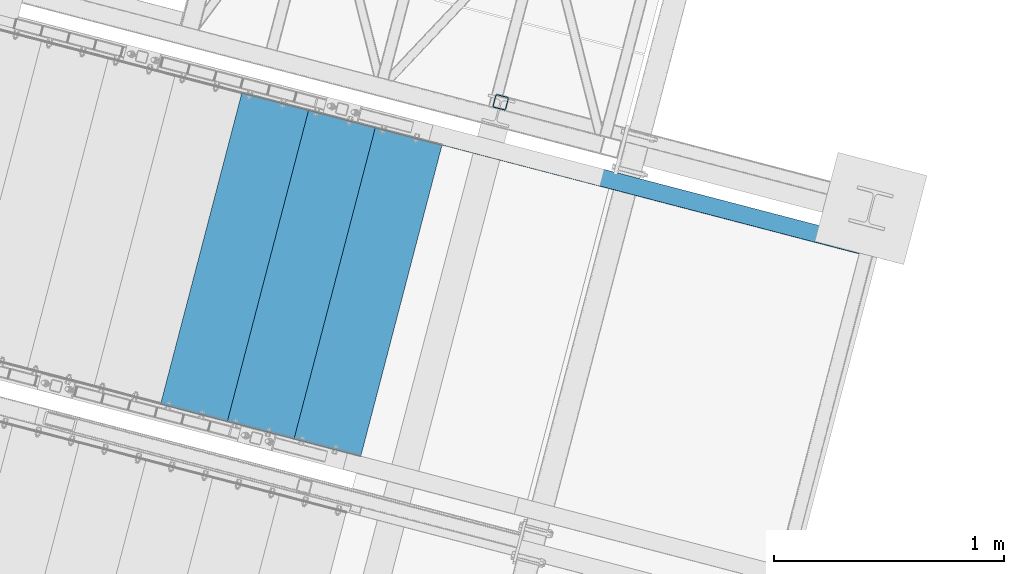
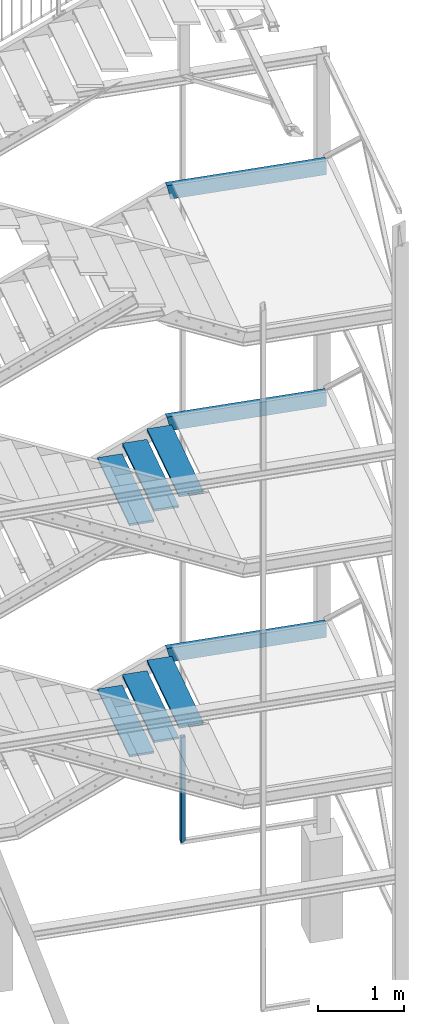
# One storey, part 46 of 169: 10 discrete accessories, 10 elements without a shape of their own.
"""IFC2X3 building model written with IfcOpenShell, lengths in millimetres."""

from ifc_helpers import new_model, si_unit, frame, origin_with_axes, origin_2d_with_axis, place, context, subcontext, project, spatial, polyline, hollow_rectangle, u_section, outline, extrude, clip, halfspace, material, type_object, element, aggregate, save


model = new_model("IFC2X3")

# Units and contexts
model_context = context("Model", 3, precision=1e-05, world=origin_with_axes())
body_context = subcontext(model_context, "Body", "Model", "MODEL_VIEW")
ifc_project = project(units=[si_unit("LENGTHUNIT", "METRE", prefix="MILLI"), si_unit("AREAUNIT", "SQUARE_METRE"), si_unit("VOLUMEUNIT", "CUBIC_METRE"), si_unit("MASSUNIT", "GRAM", prefix="KILO"), si_unit("TIMEUNIT", "SECOND"), si_unit("PLANEANGLEUNIT", "RADIAN"), si_unit("SOLIDANGLEUNIT", "STERADIAN"), si_unit("THERMODYNAMICTEMPERATUREUNIT", "DEGREE_CELSIUS"), si_unit("LUMINOUSINTENSITYUNIT", "LUMEN")], contexts=[model_context])

# Site, building, storey
site_placement = place(None, origin_with_axes())
site = spatial("IfcSite", under=ifc_project, at=site_placement, Name="Undefined", CompositionType="ELEMENT")
building_placement = place(site_placement, origin_with_axes())
building = spatial("IfcBuilding", under=site, at=building_placement, Name="Undefined", CompositionType="ELEMENT")
storey_placement = place(building_placement, origin_with_axes())
storey = spatial("IfcBuildingStorey", under=building, at=storey_placement, Name="Undefined", CompositionType="ELEMENT", Elevation=0.0)

# Assembly, discrete accessory
assembly_1_placement = place(storey_placement, origin_with_axes())
assembly_1 = element("IfcElementAssembly", 1, at=assembly_1_placement, inside=storey, Name="Steel Assembly", AssemblyPlace="NOTDEFINED", PredefinedType="RIGID_FRAME")
ifc_material_1 = material(Name="STEEL/S235")
discrete_accessory_type_1 = type_object("IfcDiscreteAccessoryType", Name="BEAM")
discrete_accessory_1_placement = place(assembly_1_placement, frame((-24117.7701552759, 8116.07185030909, 2709.96656548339), z_axis=(-0.967563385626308, 0.252628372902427, -1.72000000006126e-07), x_axis=(-3.45692487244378e-05, -0.000132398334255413, -0.999999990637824)))
discrete_accessory_1 = element("IfcDiscreteAccessory", 2, at=discrete_accessory_1_placement, type_object=discrete_accessory_type_1, material=ifc_material_1, Name="BEAM", ObjectType="SHS60*4", context=body_context, shape_type="Clipping", body=[
    clip(clip(extrude(hollow_rectangle(XDim=60.0, YDim=60.0, WallThickness=4.0, InnerFilletRadius=4.0, OuterFilletRadius=8.0, at=origin_2d_with_axis()), frame((1569.99999999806, -2.69527646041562e-14, -4.25549352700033e-17), z_axis=(-1.0, -3.46944695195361e-18, -1.38777878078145e-17), x_axis=(1.73472347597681e-18, -1.0, 0.0)), (0.0, 0.0, 1.0), 1500.0), halfspace(frame((1539.99999999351, 4.24233803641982e-09, -30.0000000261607), z_axis=(0.70710678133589, 2.34578304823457e-10, -0.707106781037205), x_axis=(1.73472347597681e-18, -1.0, 0.0)), False)), halfspace(frame((70.000000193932, 1.53045220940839e-09, 999.999999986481), z_axis=(1.0, 0.0, 0.0), x_axis=(0.0, 1.0, 0.0)), True)),
])
aggregate(assembly_1, [discrete_accessory_1])

assembly_2_placement = place(storey_placement, origin_with_axes())
assembly_2 = element("IfcElementAssembly", 3, at=assembly_2_placement, inside=storey, Name="Steel Assembly", AssemblyPlace="NOTDEFINED", PredefinedType="RIGID_FRAME")
ifc_material_2 = material(Name="STEEL/S235JR")
discrete_accessory_type_2 = type_object("IfcDiscreteAccessoryType", Name="STOPNIE")
discrete_accessory_2_placement = place(assembly_2_placement, frame((-24871.7840723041, 6613.45290566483, 7265.09584768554), z_axis=(-2.54700353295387e-10, 0.0, -1.0), x_axis=(0.252562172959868, 0.967580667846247, 0.0)))
discrete_accessory_2 = element("IfcDiscreteAccessory", 4, at=discrete_accessory_2_placement, type_object=discrete_accessory_type_2, material=ifc_material_2, Name="STOPNIE", ObjectType="PL30*300", context=body_context, shape_type="SweptSolid", body=[
    extrude(outline(polyline([(3.45607986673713e-11, -150.00000000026), (-3.09228198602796e-11, 150.000000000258), (1400.00000144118, 150.000000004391), (1400.0000014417, -149.999999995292), (3.45607986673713e-11, -150.00000000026)])), frame((1.81898940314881e-12, 3.72231275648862e-23, -15.0000000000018), z_axis=(0.0, 0.0, 1.0), x_axis=(1.0, 0.0, 0.0)), (0.0, 0.0, 1.0), 30.0),
])
aggregate(assembly_2, [discrete_accessory_2])

assembly_3_placement = place(storey_placement, origin_with_axes())
assembly_3 = element("IfcElementAssembly", 5, at=assembly_3_placement, inside=storey, Name="Steel Assembly", AssemblyPlace="NOTDEFINED", PredefinedType="RIGID_FRAME")
discrete_accessory_3_placement = place(assembly_3_placement, frame((-25162.0582760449, 6689.22155847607, 7115.09584768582), z_axis=(-2.54700353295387e-10, 0.0, -1.0), x_axis=(0.252562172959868, 0.967580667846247, 0.0)))
discrete_accessory_3 = element("IfcDiscreteAccessory", 6, at=discrete_accessory_3_placement, type_object=discrete_accessory_type_2, material=ifc_material_2, Name="STOPNIE", ObjectType="PL30*300", context=body_context, shape_type="SweptSolid", body=[
    extrude(outline(polyline([(3.45607986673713e-11, -150.00000000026), (-3.09228198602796e-11, 150.000000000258), (1400.00000144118, 150.000000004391), (1400.0000014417, -149.999999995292), (3.45607986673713e-11, -150.00000000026)])), frame((1.81898940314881e-12, 3.72231275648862e-23, -15.0000000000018), z_axis=(0.0, 0.0, 1.0), x_axis=(1.0, 0.0, 0.0)), (0.0, 0.0, 1.0), 30.0),
])
aggregate(assembly_3, [discrete_accessory_3])

assembly_4_placement = place(storey_placement, origin_with_axes())
assembly_4 = element("IfcElementAssembly", 7, at=assembly_4_placement, inside=storey, Name="Steel Assembly", AssemblyPlace="NOTDEFINED", PredefinedType="RIGID_FRAME")
discrete_accessory_4_placement = place(assembly_4_placement, frame((-25452.3324797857, 6764.9902112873, 6965.09584768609), z_axis=(-2.54700353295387e-10, 0.0, -1.0), x_axis=(0.252562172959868, 0.967580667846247, 0.0)))
discrete_accessory_4 = element("IfcDiscreteAccessory", 8, at=discrete_accessory_4_placement, type_object=discrete_accessory_type_2, material=ifc_material_2, Name="STOPNIE", ObjectType="PL30*300", context=body_context, shape_type="SweptSolid", body=[
    extrude(outline(polyline([(3.45607986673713e-11, -150.00000000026), (-3.09228198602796e-11, 150.000000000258), (1400.00000144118, 150.000000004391), (1400.0000014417, -149.999999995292), (3.45607986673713e-11, -150.00000000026)])), frame((1.81898940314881e-12, 3.72231275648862e-23, -15.0000000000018), z_axis=(0.0, 0.0, 1.0), x_axis=(1.0, 0.0, 0.0)), (0.0, 0.0, 1.0), 30.0),
])
aggregate(assembly_4, [discrete_accessory_4])

assembly_5_placement = place(storey_placement, origin_with_axes())
assembly_5 = element("IfcElementAssembly", 9, at=assembly_5_placement, inside=storey, Name="Steel Assembly", AssemblyPlace="NOTDEFINED", PredefinedType="RIGID_FRAME")
discrete_accessory_5_placement = place(assembly_5_placement, frame((-24871.8981578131, 6613.01599308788, 3965.09587439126), z_axis=(-2.54700353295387e-10, 0.0, -1.0), x_axis=(0.252562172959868, 0.967580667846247, 0.0)))
discrete_accessory_5 = element("IfcDiscreteAccessory", 10, at=discrete_accessory_5_placement, type_object=discrete_accessory_type_2, material=ifc_material_2, Name="STOPNIE", ObjectType="PL30*300", context=body_context, shape_type="SweptSolid", body=[
    extrude(outline(polyline([(3.45607986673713e-11, -150.00000000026), (-3.09228198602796e-11, 150.000000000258), (1400.00000144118, 150.000000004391), (1400.0000014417, -149.999999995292), (3.45607986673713e-11, -150.00000000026)])), frame((1.81898940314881e-12, 3.72231275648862e-23, -15.0000000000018), z_axis=(0.0, 0.0, 1.0), x_axis=(1.0, 0.0, 0.0)), (0.0, 0.0, 1.0), 30.0),
])
aggregate(assembly_5, [discrete_accessory_5])

assembly_6_placement = place(storey_placement, origin_with_axes())
assembly_6 = element("IfcElementAssembly", 11, at=assembly_6_placement, inside=storey, Name="Steel Assembly", AssemblyPlace="NOTDEFINED", PredefinedType="RIGID_FRAME")
discrete_accessory_6_placement = place(assembly_6_placement, frame((-25162.1723615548, 6688.78464589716, 3815.09587439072), z_axis=(-2.54700353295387e-10, 0.0, -1.0), x_axis=(0.252562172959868, 0.967580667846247, 0.0)))
discrete_accessory_6 = element("IfcDiscreteAccessory", 12, at=discrete_accessory_6_placement, type_object=discrete_accessory_type_2, material=ifc_material_2, Name="STOPNIE", ObjectType="PL30*300", context=body_context, shape_type="SweptSolid", body=[
    extrude(outline(polyline([(3.45607986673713e-11, -150.00000000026), (-3.09228198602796e-11, 150.000000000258), (1400.00000144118, 150.000000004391), (1400.0000014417, -149.999999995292), (3.45607986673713e-11, -150.00000000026)])), frame((1.81898940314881e-12, 3.72231275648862e-23, -15.0000000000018), z_axis=(0.0, 0.0, 1.0), x_axis=(1.0, 0.0, 0.0)), (0.0, 0.0, 1.0), 30.0),
])
aggregate(assembly_6, [discrete_accessory_6])

assembly_7_placement = place(storey_placement, origin_with_axes())
assembly_7 = element("IfcElementAssembly", 13, at=assembly_7_placement, inside=storey, Name="Steel Assembly", AssemblyPlace="NOTDEFINED", PredefinedType="RIGID_FRAME")
discrete_accessory_7_placement = place(assembly_7_placement, frame((-25452.4465652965, 6764.55329870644, 3665.09587439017), z_axis=(-2.54700353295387e-10, 0.0, -1.0), x_axis=(0.252562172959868, 0.967580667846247, 0.0)))
discrete_accessory_7 = element("IfcDiscreteAccessory", 14, at=discrete_accessory_7_placement, type_object=discrete_accessory_type_2, material=ifc_material_2, Name="STOPNIE", ObjectType="PL30*300", context=body_context, shape_type="SweptSolid", body=[
    extrude(outline(polyline([(3.45607986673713e-11, -150.00000000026), (-3.09228198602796e-11, 150.000000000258), (1400.00000144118, 150.000000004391), (1400.0000014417, -149.999999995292), (3.45607986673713e-11, -150.00000000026)])), frame((1.81898940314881e-12, 3.72231275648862e-23, -15.0000000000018), z_axis=(0.0, 0.0, 1.0), x_axis=(1.0, 0.0, 0.0)), (0.0, 0.0, 1.0), 30.0),
])
aggregate(assembly_7, [discrete_accessory_7])

assembly_8_placement = place(storey_placement, origin_with_axes())
assembly_8 = element("IfcElementAssembly", 15, at=assembly_8_placement, inside=storey, Name="Steel Assembly", AssemblyPlace="NOTDEFINED", PredefinedType="RIGID_FRAME")
discrete_accessory_type_3 = type_object("IfcDiscreteAccessoryType", Name="BELKA")
discrete_accessory_8_placement = place(assembly_8_placement, frame((-22549.2610463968, 7493.34863808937, 10600.0958013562), z_axis=(0.0, 0.0, 1.0), x_axis=(-0.967580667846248, 0.252562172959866, 0.0)))
discrete_accessory_8 = element("IfcDiscreteAccessory", 16, at=discrete_accessory_8_placement, type_object=discrete_accessory_type_3, material=ifc_material_1, Name="BELKA", ObjectType="UPN200", context=body_context, shape_type="Clipping", body=[
    clip(extrude(u_section(Depth=200.0, FlangeWidth=75.0, WebThickness=8.5, FlangeThickness=11.5, FilletRadius=11.5, EdgeRadius=6.0, at=origin_2d_with_axis()), frame((1972.2587701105, 3.45264996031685e-13, 1.81898940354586e-12), z_axis=(-1.0, -3.46944695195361e-18, -1.38777878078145e-17), x_axis=(1.73472347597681e-18, -1.0, 0.0)), (0.0, 0.0, 1.0), 1972.26), halfspace(frame((1934.99999932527, -37.5000017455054, 100.000000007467), z_axis=(-0.973248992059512, 5.5925641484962e-10, 0.229752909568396), x_axis=(1.73472347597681e-18, -1.0, 0.0)), True)),
])
aggregate(assembly_8, [discrete_accessory_8])

assembly_9_placement = place(storey_placement, origin_with_axes())
assembly_9 = element("IfcElementAssembly", 17, at=assembly_9_placement, inside=storey, Name="Steel Assembly", AssemblyPlace="NOTDEFINED", PredefinedType="RIGID_FRAME")
discrete_accessory_9_placement = place(assembly_9_placement, frame((-22549.3751238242, 7492.91172315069, 7300.0958322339), z_axis=(0.0, 0.0, 1.0), x_axis=(-0.967580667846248, 0.252562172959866, 0.0)))
discrete_accessory_9 = element("IfcDiscreteAccessory", 18, at=discrete_accessory_9_placement, type_object=discrete_accessory_type_3, material=ifc_material_1, Name="BELKA", ObjectType="UPN200", context=body_context, shape_type="Clipping", body=[
    clip(extrude(u_section(Depth=200.0, FlangeWidth=75.0, WebThickness=8.5, FlangeThickness=11.5, FilletRadius=11.5, EdgeRadius=6.0, at=origin_2d_with_axis()), frame((1972.2587701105, 3.45264996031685e-13, 1.81898940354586e-12), z_axis=(-1.0, -3.46944695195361e-18, -1.38777878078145e-17), x_axis=(1.73472347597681e-18, -1.0, 0.0)), (0.0, 0.0, 1.0), 1972.26), halfspace(frame((1934.99999932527, -37.5000017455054, 100.000000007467), z_axis=(-0.973248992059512, 5.5925641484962e-10, 0.229752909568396), x_axis=(1.73472347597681e-18, -1.0, 0.0)), True)),
])
aggregate(assembly_9, [discrete_accessory_9])

assembly_10_placement = place(storey_placement, origin_with_axes())
assembly_10 = element("IfcElementAssembly", 19, at=assembly_10_placement, inside=storey, Name="Steel Assembly", AssemblyPlace="NOTDEFINED", PredefinedType="RIGID_FRAME")
discrete_accessory_10_placement = place(assembly_10_placement, frame((-22549.4892012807, 7492.47480818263, 4000.0958631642), z_axis=(0.0, 0.0, 1.0), x_axis=(-0.967580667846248, 0.252562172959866, 0.0)))
discrete_accessory_10 = element("IfcDiscreteAccessory", 20, at=discrete_accessory_10_placement, type_object=discrete_accessory_type_3, material=ifc_material_1, Name="BELKA", ObjectType="UPN200", context=body_context, shape_type="Clipping", body=[
    clip(extrude(u_section(Depth=200.0, FlangeWidth=75.0, WebThickness=8.5, FlangeThickness=11.5, FilletRadius=11.5, EdgeRadius=6.0, at=origin_2d_with_axis()), frame((1972.2587701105, 3.45264996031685e-13, 1.81898940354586e-12), z_axis=(-1.0, -3.46944695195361e-18, -1.38777878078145e-17), x_axis=(1.73472347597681e-18, -1.0, 0.0)), (0.0, 0.0, 1.0), 1972.26), halfspace(frame((1934.99999932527, -37.5000017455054, 100.000000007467), z_axis=(-0.973248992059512, 5.5925641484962e-10, 0.229752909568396), x_axis=(1.73472347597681e-18, -1.0, 0.0)), True)),
])
aggregate(assembly_10, [discrete_accessory_10])

save(model, "model.ifc")
